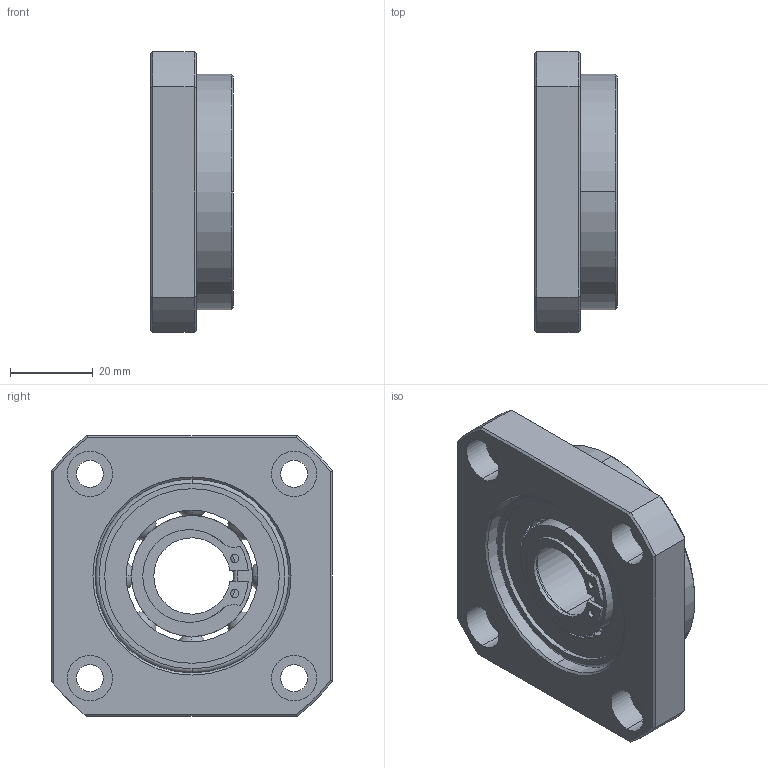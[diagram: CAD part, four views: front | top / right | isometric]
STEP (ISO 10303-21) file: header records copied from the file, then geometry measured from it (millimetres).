
FILE_DESCRIPTION (( 'STEP AP214' ), '1' );
FILE_NAME ('7.4026 FF20.STEP', '2026-03-06T07:51:25', ( '' ), ( '' ), 'SwSTEP 2.0', 'SolidWorks 2025', '' );
FILE_SCHEMA (( 'AUTOMOTIVE_DESIGN' ));
Length unit declared in the file: millimetre
Products named in the file (1): 7.4026 FF20
Bounding box: 20 x 68 x 68 mm (x, y, z)
Volume: 46600.5 mm3; surface area: 25665.1 mm2
Topology: 3 solids, 3 shells, 309 faces, 882 edges, 576 vertices
Faces by surface type: sphere 108, plane 76, cylinder 63, torus 32, bspline 17, cone 13
Entity records: 20259 total; most frequent: CARTESIAN_POINT 10131, ORIENTED_EDGE 1764, DIRECTION 1517, EDGE_CURVE 882, AXIS2_PLACEMENT_3D 666, VERTEX_POINT 576, CIRCLE 373, EDGE_LOOP 354
